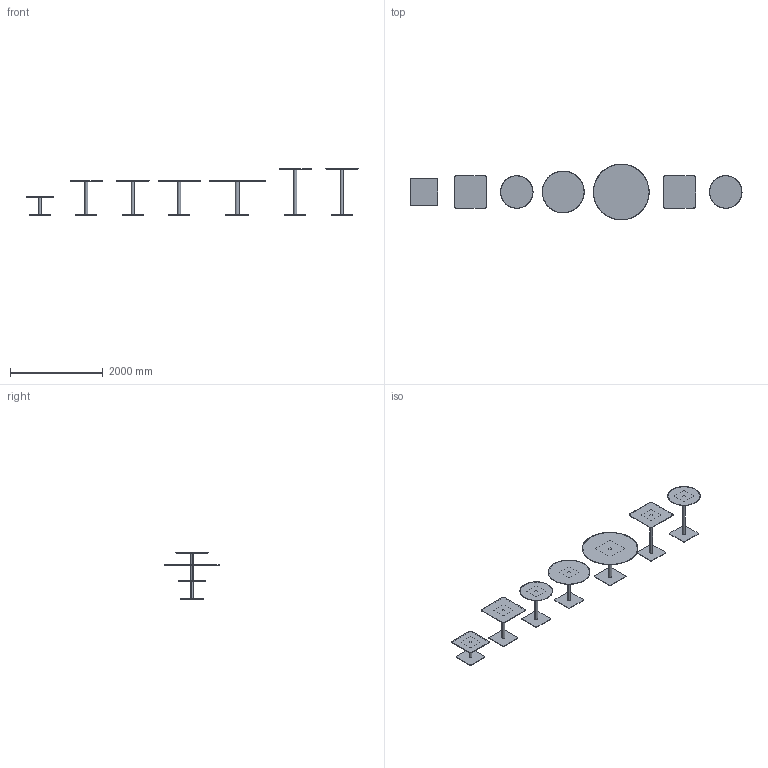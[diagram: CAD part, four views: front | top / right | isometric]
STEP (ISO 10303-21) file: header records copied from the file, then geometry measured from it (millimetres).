
FILE_DESCRIPTION(/* description */ (''),/* implementation_level */ '2;1');
FILE_NAME(/* name */ 'TRUE_Oracle Tables_3D',/* time_stamp */ '2026-08-28T11:47:38+02:00',/* author */ (''),/* organization */ (''),/* preprocessor_version */ 'ST-DEVELOPER v16.5',/* originating_system */ '',/* authorisation */ '');
FILE_SCHEMA (('CONFIG_CONTROL_DESIGN'));
Length unit declared in the file: millimetre
Products named in the file (1): Document
Bounding box: 7149.92 x 1199.78 x 1002 mm (x, y, z)
Volume: 79948679.8 mm3; surface area: 13467571.3 mm2
Topology: 28 solids, 28 shells, 252 faces, 554 edges, 359 vertices
Faces by surface type: plane 112, cylinder 85, bspline 55
Entity records: 9531 total; most frequent: CARTESIAN_POINT 5860, ORIENTED_EDGE 1106, EDGE_CURVE 553, VERTEX_POINT 357, ADVANCED_FACE 252, FACE_OUTER_BOUND 252, EDGE_LOOP 252, DIRECTION 203
